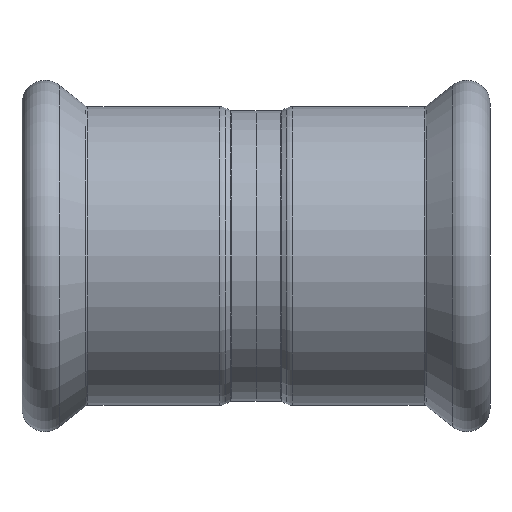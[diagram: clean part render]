
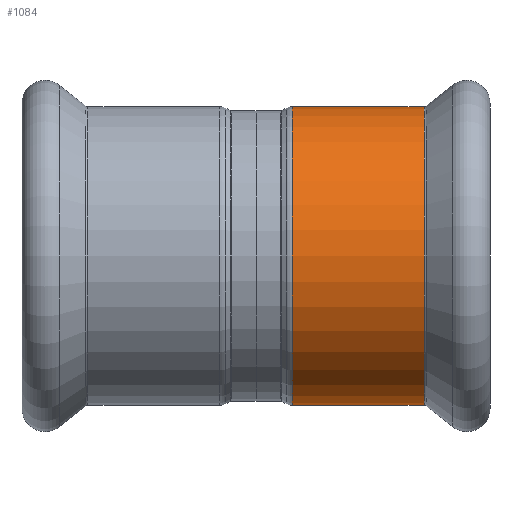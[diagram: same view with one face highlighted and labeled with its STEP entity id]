
A CAD part, front view. The second image highlights one B-rep face of the part: STEP entity #1084.
In plain terms, the highlighted cylindrical face has radius 22.65 mm (diameter 45.3 mm), a partial arc.
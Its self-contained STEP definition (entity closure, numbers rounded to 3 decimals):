
#124 = ORIENTED_EDGE ( 'NONE', *, *, #1764, .F. ) ;
#248 = ORIENTED_EDGE ( 'NONE', *, *, #1268, .T. ) ;
#272 = DIRECTION ( 'NONE',  ( 0., 0., 1. ) ) ;
#360 = EDGE_LOOP ( 'NONE', ( #124, #248, #1429, #925 ) ) ;
#407 = DIRECTION ( 'NONE',  ( 0., 0., 1. ) ) ;
#441 = CARTESIAN_POINT ( 'NONE',  ( 5.5, 0., 0. ) ) ;
#465 = AXIS2_PLACEMENT_3D ( 'NONE', #1173, #1478, #407 ) ;
#470 = CIRCLE ( 'NONE', #1731, 22.65 ) ;
#522 = CARTESIAN_POINT ( 'NONE',  ( 25.503, 0., -22.65 ) ) ;
#590 = DIRECTION ( 'NONE',  ( -1., 0., 0. ) ) ;
#646 = LINE ( 'NONE', #1576, #1408 ) ;
#683 = FACE_OUTER_BOUND ( 'NONE', #360, .T. ) ;
#716 = VERTEX_POINT ( 'NONE', #1649 ) ;
#811 = EDGE_CURVE ( 'NONE', #1322, #1359, #1520, .T. ) ;
#871 = DIRECTION ( 'NONE',  ( -1., 0., 0. ) ) ;
#925 = ORIENTED_EDGE ( 'NONE', *, *, #811, .F. ) ;
#936 = CARTESIAN_POINT ( 'NONE',  ( 5.5, 0., -22.65 ) ) ;
#1014 = CARTESIAN_POINT ( 'NONE',  ( -47.221, 0., 22.65 ) ) ;
#1018 = LINE ( 'NONE', #1014, #1116 ) ;
#1084 = ADVANCED_FACE ( 'NONE', ( #683 ), #1191, .T. ) ;
#1116 = VECTOR ( 'NONE', #1594, 1000. ) ;
#1173 = CARTESIAN_POINT ( 'NONE',  ( -47.221, 0., 0. ) ) ;
#1191 = CYLINDRICAL_SURFACE ( 'NONE', #465, 22.65 ) ;
#1202 = CARTESIAN_POINT ( 'NONE',  ( 25.503, 0., 0. ) ) ;
#1227 = DIRECTION ( 'NONE',  ( 0., 0., 1. ) ) ;
#1268 = EDGE_CURVE ( 'NONE', #1605, #716, #470, .T. ) ;
#1322 = VERTEX_POINT ( 'NONE', #936 ) ;
#1359 = VERTEX_POINT ( 'NONE', #1703 ) ;
#1360 = AXIS2_PLACEMENT_3D ( 'NONE', #441, #871, #1227 ) ;
#1408 = VECTOR ( 'NONE', #1433, 1000. ) ;
#1429 = ORIENTED_EDGE ( 'NONE', *, *, #1567, .T. ) ;
#1433 = DIRECTION ( 'NONE',  ( -1., 0., 0. ) ) ;
#1478 = DIRECTION ( 'NONE',  ( -1., 0., 0. ) ) ;
#1520 = CIRCLE ( 'NONE', #1360, 22.65 ) ;
#1567 = EDGE_CURVE ( 'NONE', #716, #1359, #1018, .T. ) ;
#1576 = CARTESIAN_POINT ( 'NONE',  ( -47.221, 0., -22.65 ) ) ;
#1594 = DIRECTION ( 'NONE',  ( -1., 0., 0. ) ) ;
#1605 = VERTEX_POINT ( 'NONE', #522 ) ;
#1649 = CARTESIAN_POINT ( 'NONE',  ( 25.503, 0., 22.65 ) ) ;
#1703 = CARTESIAN_POINT ( 'NONE',  ( 5.5, 0., 22.65 ) ) ;
#1731 = AXIS2_PLACEMENT_3D ( 'NONE', #1202, #590, #272 ) ;
#1764 = EDGE_CURVE ( 'NONE', #1605, #1322, #646, .T. ) ;
